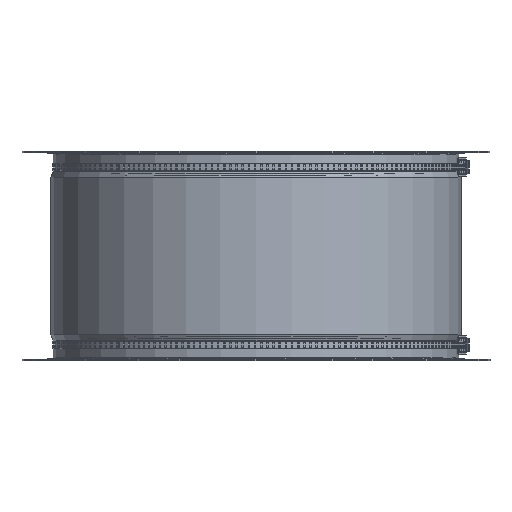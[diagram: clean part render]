
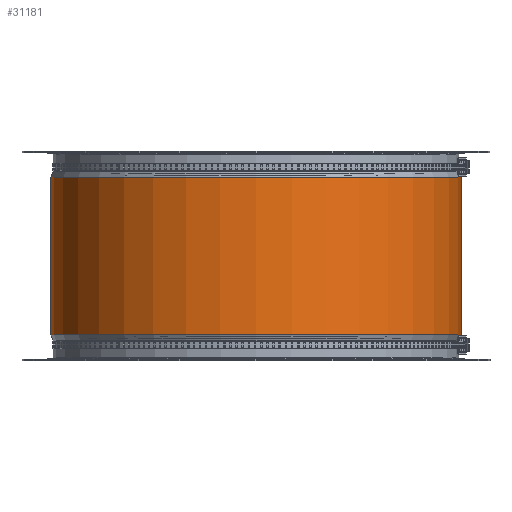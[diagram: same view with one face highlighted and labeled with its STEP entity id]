
A CAD part, front view. The second image highlights one B-rep face of the part: STEP entity #31181.
In plain terms, the highlighted cylindrical face has radius 254.5 mm (diameter 509 mm), a full revolution.
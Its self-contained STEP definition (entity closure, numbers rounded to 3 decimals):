
#7385=FACE_BOUND('',#9528,.T.);
#7667=FACE_OUTER_BOUND('',#9527,.T.);
#9527=EDGE_LOOP('',(#21007));
#9528=EDGE_LOOP('',(#21008));
#11567=CIRCLE('',#33256,254.5);
#11568=CIRCLE('',#33257,254.5);
#12861=VERTEX_POINT('',#45605);
#12862=VERTEX_POINT('',#45607);
#16094=EDGE_CURVE('',#12861,#12861,#11567,.T.);
#16095=EDGE_CURVE('',#12862,#12862,#11568,.T.);
#21007=ORIENTED_EDGE('',*,*,#16094,.F.);
#21008=ORIENTED_EDGE('',*,*,#16095,.F.);
#30326=CYLINDRICAL_SURFACE('',#33255,254.5);
#31181=ADVANCED_FACE('',(#7667,#7385),#30326,.T.);
#33255=AXIS2_PLACEMENT_3D('',#45604,#36578,#36579);
#33256=AXIS2_PLACEMENT_3D('',#45606,#36580,#36581);
#33257=AXIS2_PLACEMENT_3D('',#45608,#36582,#36583);
#36578=DIRECTION('center_axis',(0.,0.,1.));
#36579=DIRECTION('ref_axis',(-1.,0.,0.));
#36580=DIRECTION('center_axis',(0.,0.,-1.));
#36581=DIRECTION('ref_axis',(-1.,0.,0.));
#36582=DIRECTION('center_axis',(0.,0.,1.));
#36583=DIRECTION('ref_axis',(-1.,0.,0.));
#45604=CARTESIAN_POINT('Origin',(0.,0.,0.));
#45605=CARTESIAN_POINT('',(254.5,0.,-98.));
#45606=CARTESIAN_POINT('Origin',(0.,0.,-98.));
#45607=CARTESIAN_POINT('',(254.5,0.,98.));
#45608=CARTESIAN_POINT('Origin',(0.,0.,98.));
